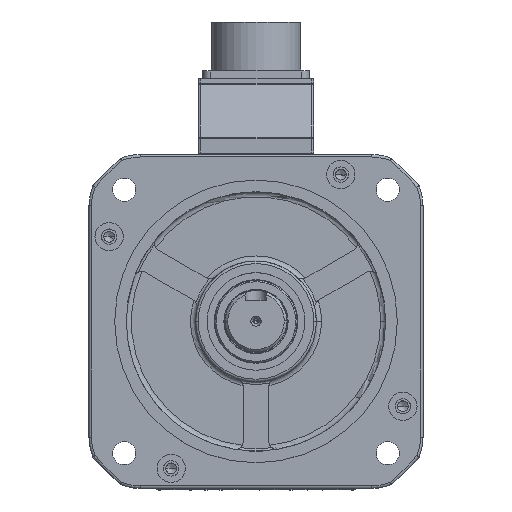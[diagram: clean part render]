
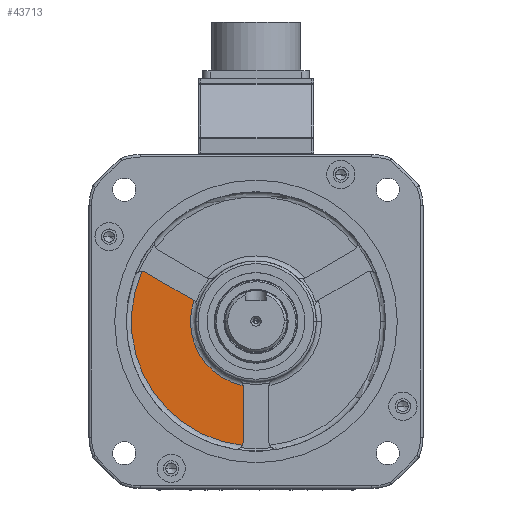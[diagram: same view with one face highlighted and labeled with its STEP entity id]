
A CAD part, top view. The second image highlights one B-rep face of the part: STEP entity #43713.
In plain terms, the highlighted planar face has unit normal (0, 0, 1).
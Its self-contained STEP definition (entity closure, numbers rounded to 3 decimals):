
#1863 = VERTEX_POINT ( 'NONE', #38872 ) ;
#2673 = ORIENTED_EDGE ( 'NONE', *, *, #37710, .T. ) ;
#3755 = DIRECTION ( 'NONE',  ( -0.866, 0.5, 0. ) ) ;
#4804 = CARTESIAN_POINT ( 'NONE',  ( -8., -25.264, 0.5 ) ) ;
#5195 = VERTEX_POINT ( 'NONE', #68451 ) ;
#5430 = FACE_OUTER_BOUND ( 'NONE', #46429, .T. ) ;
#6989 = AXIS2_PLACEMENT_3D ( 'NONE', #4804, #49493, #23436 ) ;
#8463 = ORIENTED_EDGE ( 'NONE', *, *, #54616, .T. ) ;
#9695 = ORIENTED_EDGE ( 'NONE', *, *, #81848, .F. ) ;
#9981 = CARTESIAN_POINT ( 'NONE',  ( -2.5, -4.33, 0.5 ) ) ;
#11634 = DIRECTION ( 'NONE',  ( 0., 0., 1. ) ) ;
#13241 = DIRECTION ( 'NONE',  ( 0., -1., 0. ) ) ;
#13433 = CIRCLE ( 'NONE', #6989, 3. ) ;
#14126 = AXIS2_PLACEMENT_3D ( 'NONE', #66108, #59472, #42073 ) ;
#14190 = AXIS2_PLACEMENT_3D ( 'NONE', #50017, #44225, #43804 ) ;
#16746 = DIRECTION ( 'NONE',  ( 0., 0., -1. ) ) ;
#17345 = AXIS2_PLACEMENT_3D ( 'NONE', #74129, #11634, #61337 ) ;
#17759 = EDGE_CURVE ( 'NONE', #34418, #1863, #13433, .T. ) ;
#20180 = ORIENTED_EDGE ( 'NONE', *, *, #81758, .T. ) ;
#21526 = ORIENTED_EDGE ( 'NONE', *, *, #41765, .T. ) ;
#23436 = DIRECTION ( 'NONE',  ( 1., 0., 0. ) ) ;
#24545 = VERTEX_POINT ( 'NONE', #63028 ) ;
#29669 = CARTESIAN_POINT ( 'NONE',  ( -44.416, 19.48, 0.5 ) ) ;
#30298 = PLANE ( 'NONE',  #17345 ) ;
#30332 = CIRCLE ( 'NONE', #59377, 48.5 ) ;
#31901 = CARTESIAN_POINT ( 'NONE',  ( -24.159, 8.161, 0.5 ) ) ;
#34418 = VERTEX_POINT ( 'NONE', #40597 ) ;
#34576 = CARTESIAN_POINT ( 'NONE',  ( 0., 0., 0.5 ) ) ;
#36184 = VERTEX_POINT ( 'NONE', #31901 ) ;
#37710 = EDGE_CURVE ( 'NONE', #61373, #68184, #51100, .T. ) ;
#38872 = CARTESIAN_POINT ( 'NONE',  ( -5.011, -25.003, 0.5 ) ) ;
#40597 = CARTESIAN_POINT ( 'NONE',  ( -5., -25.264, 0.5 ) ) ;
#41765 = EDGE_CURVE ( 'NONE', #36184, #24545, #67273, .T. ) ;
#41837 = DIRECTION ( 'NONE',  ( 0., 0., 1. ) ) ;
#42073 = DIRECTION ( 'NONE',  ( 1., 0., 0. ) ) ;
#43713 = ADVANCED_FACE ( 'NONE', ( #5430 ), #30298, .T. ) ;
#43804 = DIRECTION ( 'NONE',  ( 1., 0., 0. ) ) ;
#44225 = DIRECTION ( 'NONE',  ( 0., 0., 1. ) ) ;
#44276 = LINE ( 'NONE', #64157, #51149 ) ;
#46429 = EDGE_LOOP ( 'NONE', ( #71143, #8463, #21526, #20180, #2673, #64432, #74630, #9695 ) ) ;
#49262 = LINE ( 'NONE', #9981, #81541 ) ;
#49493 = DIRECTION ( 'NONE',  ( 0., 0., 1. ) ) ;
#50017 = CARTESIAN_POINT ( 'NONE',  ( -8., -46.821, 0.5 ) ) ;
#51100 = CIRCLE ( 'NONE', #14126, 3. ) ;
#51149 = VECTOR ( 'NONE', #13241, 1000. ) ;
#54616 = EDGE_CURVE ( 'NONE', #1863, #36184, #71031, .T. ) ;
#55056 = DIRECTION ( 'NONE',  ( 1., 0., 0. ) ) ;
#55189 = AXIS2_PLACEMENT_3D ( 'NONE', #34576, #16746, #79232 ) ;
#56063 = CARTESIAN_POINT ( 'NONE',  ( -25.879, 5.704, 0.5 ) ) ;
#56270 = CARTESIAN_POINT ( 'NONE',  ( 0., 0., 0.5 ) ) ;
#57773 = EDGE_CURVE ( 'NONE', #68184, #70333, #30332, .T. ) ;
#57973 = CARTESIAN_POINT ( 'NONE',  ( -43.049, 19.081, 0.5 ) ) ;
#59377 = AXIS2_PLACEMENT_3D ( 'NONE', #56270, #41837, #55056 ) ;
#59472 = DIRECTION ( 'NONE',  ( 0., 0., 1. ) ) ;
#61337 = DIRECTION ( 'NONE',  ( 1., 0., 0. ) ) ;
#61373 = VERTEX_POINT ( 'NONE', #57973 ) ;
#63028 = CARTESIAN_POINT ( 'NONE',  ( -24.379, 8.302, 0.5 ) ) ;
#64157 = CARTESIAN_POINT ( 'NONE',  ( -5., 0., 0.5 ) ) ;
#64402 = CIRCLE ( 'NONE', #14190, 3. ) ;
#64432 = ORIENTED_EDGE ( 'NONE', *, *, #57773, .T. ) ;
#65009 = CARTESIAN_POINT ( 'NONE',  ( -5.338, -48.205, 0.5 ) ) ;
#66108 = CARTESIAN_POINT ( 'NONE',  ( -44.549, 16.483, 0.5 ) ) ;
#67273 = CIRCLE ( 'NONE', #69972, 3. ) ;
#68184 = VERTEX_POINT ( 'NONE', #29669 ) ;
#68451 = CARTESIAN_POINT ( 'NONE',  ( -5., -46.821, 0.5 ) ) ;
#69304 = DIRECTION ( 'NONE',  ( 1., 0., 0. ) ) ;
#69972 = AXIS2_PLACEMENT_3D ( 'NONE', #56063, #75925, #69304 ) ;
#70333 = VERTEX_POINT ( 'NONE', #65009 ) ;
#70724 = EDGE_CURVE ( 'NONE', #70333, #5195, #64402, .T. ) ;
#71031 = CIRCLE ( 'NONE', #55189, 25.5 ) ;
#71143 = ORIENTED_EDGE ( 'NONE', *, *, #17759, .T. ) ;
#74129 = CARTESIAN_POINT ( 'NONE',  ( 0., 0., 0.5 ) ) ;
#74630 = ORIENTED_EDGE ( 'NONE', *, *, #70724, .T. ) ;
#75925 = DIRECTION ( 'NONE',  ( 0., 0., 1. ) ) ;
#79232 = DIRECTION ( 'NONE',  ( 1., 0., 0. ) ) ;
#81541 = VECTOR ( 'NONE', #3755, 1000. ) ;
#81758 = EDGE_CURVE ( 'NONE', #24545, #61373, #49262, .T. ) ;
#81848 = EDGE_CURVE ( 'NONE', #34418, #5195, #44276, .T. ) ;
